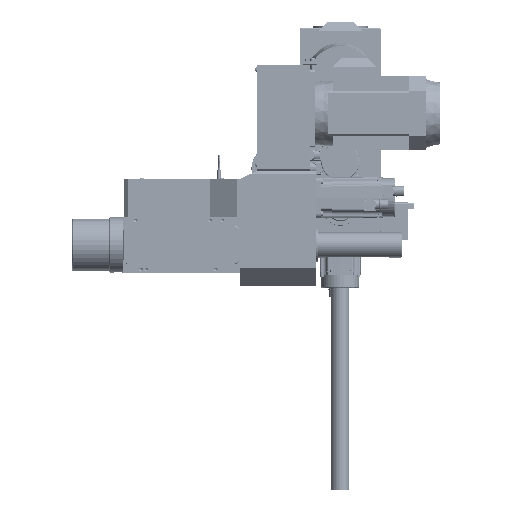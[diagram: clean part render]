
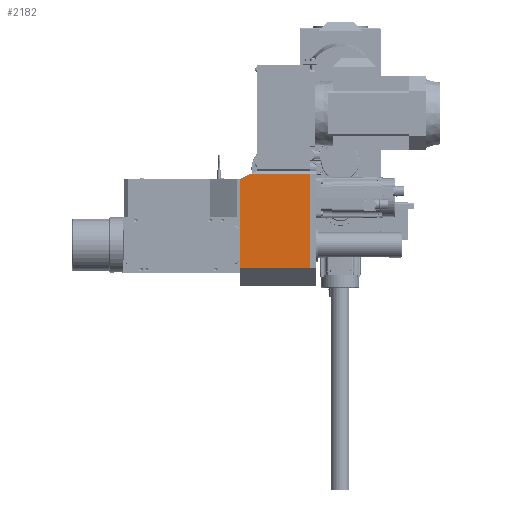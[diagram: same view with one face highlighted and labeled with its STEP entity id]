
A CAD part, front view. The second image highlights one B-rep face of the part: STEP entity #2182.
In plain terms, the highlighted planar face has unit normal (0, -1, 0) as drawn and (-1, 0, 0) by its records, which use the part's own axes.
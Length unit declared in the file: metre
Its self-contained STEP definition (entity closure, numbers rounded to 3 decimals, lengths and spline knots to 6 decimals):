
#2182 = ADVANCED_FACE( '', ( #3753 ), #3754, .F. );
#3753 = FACE_OUTER_BOUND( '', #7302, .T. );
#3754 = PLANE( '', #7303 );
#7302 = EDGE_LOOP( '', ( #12276, #12277, #12278, #12279, #12280 ) );
#7303 = AXIS2_PLACEMENT_3D( '', #12281, #12282, #12283 );
#12276 = ORIENTED_EDGE( '', *, *, #22771, .F. );
#12277 = ORIENTED_EDGE( '', *, *, #22772, .T. );
#12278 = ORIENTED_EDGE( '', *, *, #22773, .T. );
#12279 = ORIENTED_EDGE( '', *, *, #22769, .T. );
#12280 = ORIENTED_EDGE( '', *, *, #22774, .T. );
#12281 = CARTESIAN_POINT( '', ( -0.155, 0.019444, 0.253 ) );
#12282 = DIRECTION( '', ( 1., 0., 0. ) );
#12283 = DIRECTION( '', ( 0., 0., -1. ) );
#22769 = EDGE_CURVE( '', #26054, #26052, #26055, .T. );
#22771 = EDGE_CURVE( '', #26057, #26058, #26059, .T. );
#22772 = EDGE_CURVE( '', #26057, #26060, #26061, .T. );
#22773 = EDGE_CURVE( '', #26060, #26054, #26062, .T. );
#22774 = EDGE_CURVE( '', #26052, #26058, #26063, .T. );
#26052 = VERTEX_POINT( '', #31531 );
#26054 = VERTEX_POINT( '', #31534 );
#26055 = LINE( '', #31535, #31536 );
#26057 = VERTEX_POINT( '', #31539 );
#26058 = VERTEX_POINT( '', #31540 );
#26059 = LINE( '', #31541, #31542 );
#26060 = VERTEX_POINT( '', #31543 );
#26061 = LINE( '', #31544, #31545 );
#26062 = LINE( '', #31546, #31547 );
#26063 = LINE( '', #31548, #31549 );
#31531 = CARTESIAN_POINT( '', ( -0.155, 0.019444, 0.04 ) );
#31534 = CARTESIAN_POINT( '', ( -0.155, 0.019444, 0.236 ) );
#31535 = CARTESIAN_POINT( '', ( -0.155, 0.019444, 0.253 ) );
#31536 = VECTOR( '', #41885, 1. );
#31539 = CARTESIAN_POINT( '', ( -0.155, -0.137056, 0.248 ) );
#31540 = CARTESIAN_POINT( '', ( -0.155, -0.137056, 0.04 ) );
#31541 = CARTESIAN_POINT( '', ( -0.155, -0.137056, 0.253 ) );
#31542 = VECTOR( '', #41887, 1. );
#31543 = CARTESIAN_POINT( '', ( -0.155, -0.007026, 0.248 ) );
#31544 = CARTESIAN_POINT( '', ( -0.155, -0.018056, 0.248 ) );
#31545 = VECTOR( '', #41888, 1. );
#31546 = CARTESIAN_POINT( '', ( -0.155, -0.018056, 0.253 ) );
#31547 = VECTOR( '', #41889, 1. );
#31548 = CARTESIAN_POINT( '', ( -0.155, 0.019444, 0.04 ) );
#31549 = VECTOR( '', #41890, 1. );
#41885 = DIRECTION( '', ( 0., 0., -1. ) );
#41887 = DIRECTION( '', ( 0., 0., -1. ) );
#41888 = DIRECTION( '', ( 0., 1., 0. ) );
#41889 = DIRECTION( '', ( 0., 0.911, -0.413 ) );
#41890 = DIRECTION( '', ( 0., -1., 0. ) );
